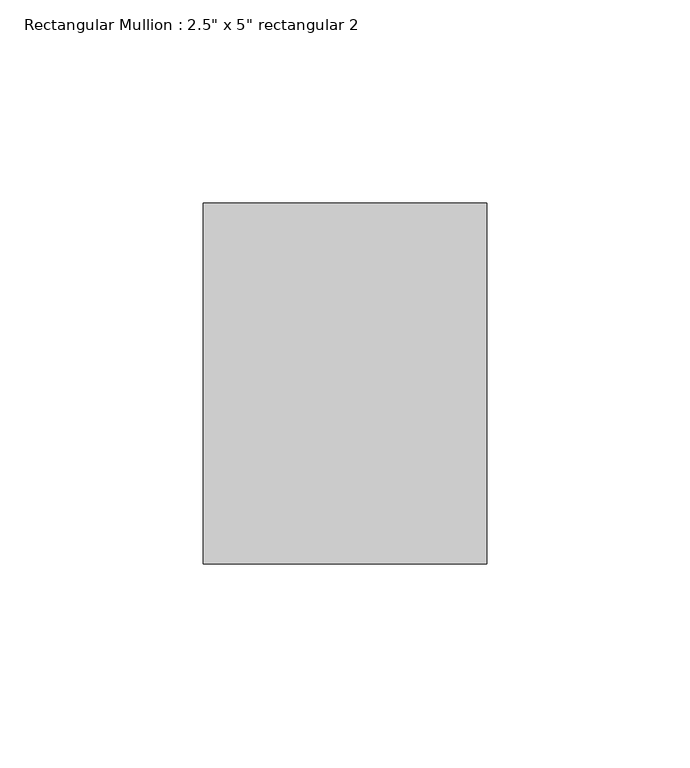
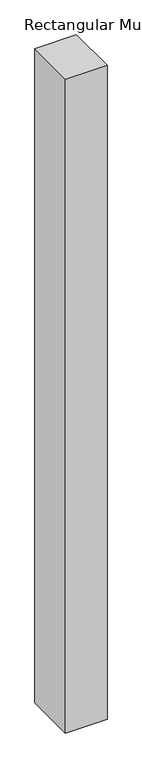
"""IFC4 building model written with IfcOpenShell, lengths in millimetres: member geometry."""

from ifc_helpers import new_model, si_unit, frame, origin, place, context, project, spatial, polyline, outline, extrude, source, transform, mapped, element, save


def member_c3e0f3cf(model_context):
    return source(origin(), model_context, "Body", "SweptSolid", [
        extrude(outline(polyline([(0.0, 44.45), (0.0, -44.45), (-69.85, -44.45), (-69.85, 44.45), (0.0, 44.45)])), frame((0.0, 0.0, -1162.05), z_axis=(0.0, 0.0, 1.0), x_axis=(1.0, 0.0, 0.0)), (0.0, 0.0, 1.0), 1162.05),
    ])


if __name__ == "__main__":
    model = new_model("IFC4")
    model_context = context("Model", 3, world=origin())
    ifc_project = project(units=[si_unit("LENGTHUNIT", "METRE", prefix="MILLI")], contexts=[model_context])
    site = spatial("IfcSite", under=ifc_project)
    building = spatial("IfcBuilding", under=site)
    placement = place(None, origin())
    member_shape = member_c3e0f3cf(model_context)
    element("IfcMember", 1, ObjectType="Rectangular Mullion : 2.5\" x 5\" rectangular 2", at=placement, inside=building, context=model_context, shape_type="MappedRepresentation", body=[
        mapped(member_shape, transform((0.0, 0.0, 0.0), x_axis=(1.0, 0.0, 0.0), y_axis=(0.0, 1.0, 0.0), z_axis=(0.0, 0.0, 1.0))),
    ])
    save(model, "model.ifc")
